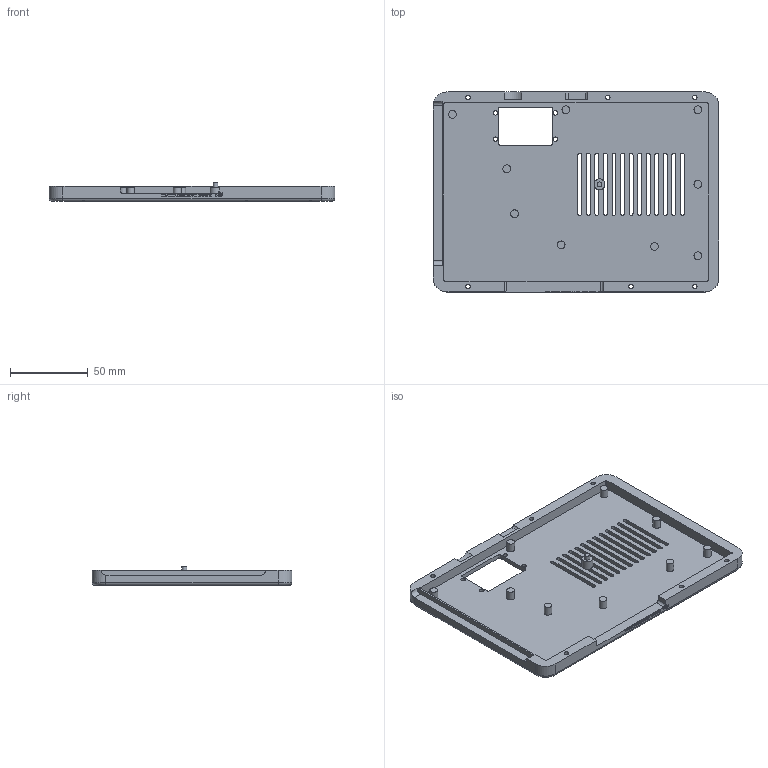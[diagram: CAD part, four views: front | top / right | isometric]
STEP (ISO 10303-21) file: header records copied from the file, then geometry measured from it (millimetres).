
FILE_DESCRIPTION(('Open CASCADE Model'),'2;1');
FILE_NAME('Open CASCADE Shape Model','2026-11-10T13:03:26',('Author'),( 'Open CASCADE'),'Open CASCADE STEP processor 7.7','Open CASCADE 7.7' ,'Unknown');
FILE_SCHEMA(('AUTOMOTIVE_DESIGN { 1 0 10303 214 1 1 1 1 }'));
Length unit declared in the file: millimetre
Products named in the file (1): Open CASCADE STEP translator 7.7 2
Bounding box: 184.1 x 128.75 x 12 mm (x, y, z)
Volume: 87648.2 mm3; surface area: 57079.6 mm2
Topology: 1 solids, 1 shells, 596 faces, 1697 edges, 1127 vertices
Faces by surface type: plane 256, extrusion 226, cylinder 106, torus 4, cone 4
Full cylindrical faces by diameter (mm): 2.9 x10, 3.2 x1, 5 x15, 7 x1, 13.2 x4
Entity records: 42448 total; most frequent: CARTESIAN_POINT 10852, DIRECTION 4851, VECTOR 3458, ORIENTED_EDGE 3394, PCURVE 3394, DEFINITIONAL_REPRESENTATION 3394, LINE 3232, EDGE_CURVE 1697
